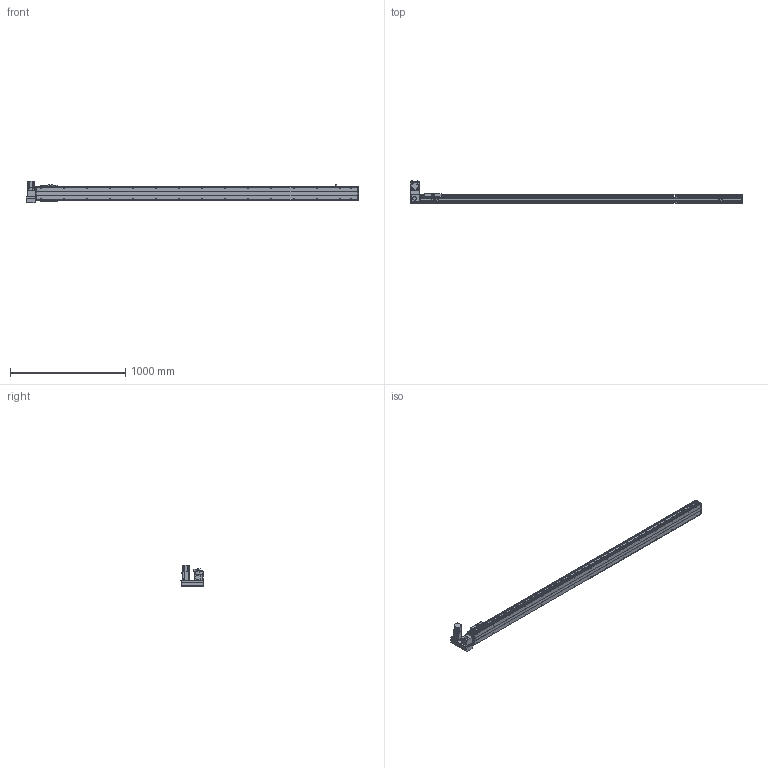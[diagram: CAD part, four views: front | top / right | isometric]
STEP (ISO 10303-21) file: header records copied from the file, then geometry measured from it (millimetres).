
FILE_DESCRIPTION(/* description */ ('STEP AP214'),/* implementation_level */ '2;1');
FILE_NAME(/* name */ 'PBS120-P40-S2500-LU-T40-C1-N(0)',/* time_stamp */ '2022-06-06T02:34:00+02:00',/* author */ ('License CC BY-ND 4.0'),/* organization */ ('CADENAS'),/* preprocessor_version */ 'ST-DEVELOPER v18.102',/* originating_system */ 'PARTsolutions',/* authorisation */ ' ');
FILE_SCHEMA (('AUTOMOTIVE_DESIGN {1 0 10303 214 3 1 1}'));
Length unit declared in the file: millimetre
Products named in the file (7): PBS120-P40-S2500-LU-T40-C1-N(0); PBS120_sensor; PBS120_plant; PBS120_sliser; T40-p1; PBS120T-LU_motors; PBS120-S2500()_body
Assembly tree (8 placements, depth 2):
  PBS120-P40-S2500-LU-T40-C1-N(0)
    PBS120_sensor  x3
    PBS120_plant
    PBS120_sliser
    T40-p1
    PBS120T-LU_motors
    PBS120-S2500()_body
Bounding box: 2886 x 198 x 189.7 mm (x, y, z)
Volume: 10843617.8 mm3; surface area: 2241065.7 mm2
Topology: 8 solids, 8 shells, 870 faces, 2226 edges, 1429 vertices
Faces by surface type: plane 563, cylinder 243, cone 62, torus 2
Full cylindrical faces by diameter (mm): 2.459 x6, 3.242 x4, 4 x2, 4.134 x4, 4.5 x10, 4.917 x34, 5.5 x11, 6 x2, 6.6 x1, 7 x2, 8.5 x4, 9 x4, 12 x1, 14 x1, 30 x2, 40 x1, 50 x2
Entity records: 22434 total; most frequent: DIRECTION 3908, CARTESIAN_POINT 3803, ORIENTED_EDGE 3586, EDGE_CURVE 1793, AXIS2_PLACEMENT_3D 1340, VERTEX_POINT 1235, LINE 1228, VECTOR 1228
